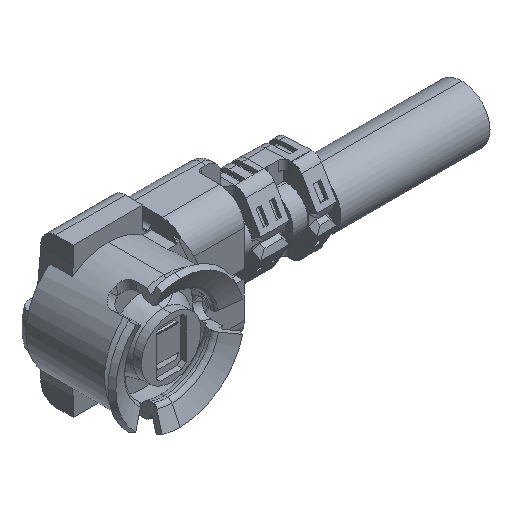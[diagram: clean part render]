
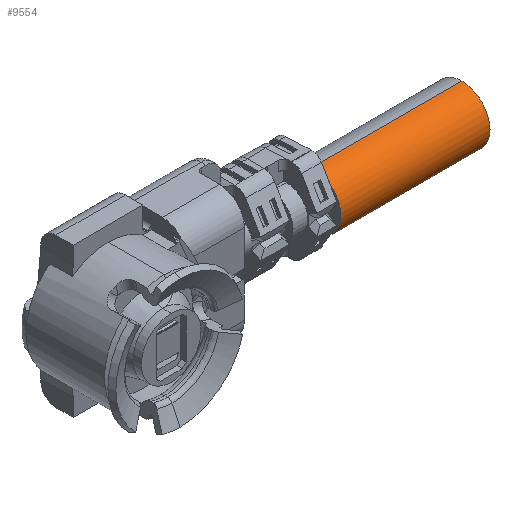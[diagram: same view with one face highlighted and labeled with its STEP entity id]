
A CAD part, isometric view. The second image highlights one B-rep face of the part: STEP entity #9554.
In plain terms, the highlighted cylindrical face has radius 0.565 mm (diameter 1.13 mm), a partial arc.
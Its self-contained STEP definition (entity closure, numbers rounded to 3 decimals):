
#258 = FACE_OUTER_BOUND ( 'NONE', #12435, .T. ) ;
#263 = CARTESIAN_POINT ( 'NONE',  ( 7., -0.465, 0. ) ) ;
#480 = VECTOR ( 'NONE', #9640, 1000. ) ;
#494 = LINE ( 'NONE', #10665, #480 ) ;
#614 = DIRECTION ( 'NONE',  ( 1., 0., 0. ) ) ;
#670 = DIRECTION ( 'NONE',  ( 0., 0., -1. ) ) ;
#853 = VERTEX_POINT ( 'NONE', #2937 ) ;
#857 = CARTESIAN_POINT ( 'NONE',  ( 7., -0.465, 0. ) ) ;
#896 = DIRECTION ( 'NONE',  ( 0., 0., -1. ) ) ;
#1200 = EDGE_CURVE ( 'NONE', #853, #7107, #11425, .T. ) ;
#1464 = EDGE_CURVE ( 'NONE', #12548, #10501, #10992, .T. ) ;
#1505 = VECTOR ( 'NONE', #3138, 1000. ) ;
#1517 = LINE ( 'NONE', #8221, #1505 ) ;
#1538 = CARTESIAN_POINT ( 'NONE',  ( 4., -0.81, -0.448 ) ) ;
#1636 = AXIS2_PLACEMENT_3D ( 'NONE', #263, #2286, #9512 ) ;
#1793 = AXIS2_PLACEMENT_3D ( 'NONE', #857, #614, #670 ) ;
#2064 = CARTESIAN_POINT ( 'NONE',  ( 4., -0.465, 0.565 ) ) ;
#2286 = DIRECTION ( 'NONE',  ( -1., 0., 0. ) ) ;
#2465 = CARTESIAN_POINT ( 'NONE',  ( 7., -0.465, -0.565 ) ) ;
#2663 = CYLINDRICAL_SURFACE ( 'NONE', #1636, 0.565 ) ;
#2913 = AXIS2_PLACEMENT_3D ( 'NONE', #11059, #10929, #10020 ) ;
#2937 = CARTESIAN_POINT ( 'NONE',  ( 7., -0.465, 0.565 ) ) ;
#3138 = DIRECTION ( 'NONE',  ( -1., 0., 0. ) ) ;
#3204 = VERTEX_POINT ( 'NONE', #7392 ) ;
#3660 = AXIS2_PLACEMENT_3D ( 'NONE', #13285, #6993, #896 ) ;
#3791 = VERTEX_POINT ( 'NONE', #1538 ) ;
#3878 = ORIENTED_EDGE ( 'NONE', *, *, #1200, .F. ) ;
#4535 = EDGE_CURVE ( 'NONE', #3791, #3204, #5032, .T. ) ;
#4747 = CARTESIAN_POINT ( 'NONE',  ( 4., -0.81, 0.448 ) ) ;
#5032 = CIRCLE ( 'NONE', #3660, 0.565 ) ;
#5321 = DIRECTION ( 'NONE',  ( 1., 0., 0. ) ) ;
#6257 = ORIENTED_EDGE ( 'NONE', *, *, #8925, .T. ) ;
#6342 = ORIENTED_EDGE ( 'NONE', *, *, #4535, .T. ) ;
#6496 = EDGE_CURVE ( 'NONE', #853, #12548, #1517, .T. ) ;
#6993 = DIRECTION ( 'NONE',  ( 1., 0., 0. ) ) ;
#7089 = EDGE_CURVE ( 'NONE', #7107, #3204, #494, .T. ) ;
#7107 = VERTEX_POINT ( 'NONE', #2465 ) ;
#7392 = CARTESIAN_POINT ( 'NONE',  ( 4., -0.465, -0.565 ) ) ;
#8221 = CARTESIAN_POINT ( 'NONE',  ( 7., -0.465, 0.565 ) ) ;
#8925 = EDGE_CURVE ( 'NONE', #10501, #3791, #11626, .T. ) ;
#9512 = DIRECTION ( 'NONE',  ( 0., 0., 1. ) ) ;
#9554 = ADVANCED_FACE ( 'NONE', ( #258 ), #2663, .T. ) ;
#9640 = DIRECTION ( 'NONE',  ( -1., 0., 0. ) ) ;
#10020 = DIRECTION ( 'NONE',  ( 0., 0., -1. ) ) ;
#10501 = VERTEX_POINT ( 'NONE', #4747 ) ;
#10665 = CARTESIAN_POINT ( 'NONE',  ( 7., -0.465, -0.565 ) ) ;
#10675 = ORIENTED_EDGE ( 'NONE', *, *, #6496, .T. ) ;
#10856 = ORIENTED_EDGE ( 'NONE', *, *, #1464, .T. ) ;
#10929 = DIRECTION ( 'NONE',  ( 1., 0., 0. ) ) ;
#10992 = CIRCLE ( 'NONE', #2913, 0.565 ) ;
#11059 = CARTESIAN_POINT ( 'NONE',  ( 4., -0.465, 0. ) ) ;
#11425 = CIRCLE ( 'NONE', #1793, 0.565 ) ;
#11610 = CARTESIAN_POINT ( 'NONE',  ( 4., -0.465, 0. ) ) ;
#11626 = CIRCLE ( 'NONE', #12153, 0.565 ) ;
#12153 = AXIS2_PLACEMENT_3D ( 'NONE', #11610, #5321, #12641 ) ;
#12435 = EDGE_LOOP ( 'NONE', ( #13390, #3878, #10675, #10856, #6257, #6342 ) ) ;
#12548 = VERTEX_POINT ( 'NONE', #2064 ) ;
#12641 = DIRECTION ( 'NONE',  ( 0., 0., -1. ) ) ;
#13285 = CARTESIAN_POINT ( 'NONE',  ( 4., -0.465, 0. ) ) ;
#13390 = ORIENTED_EDGE ( 'NONE', *, *, #7089, .F. ) ;
